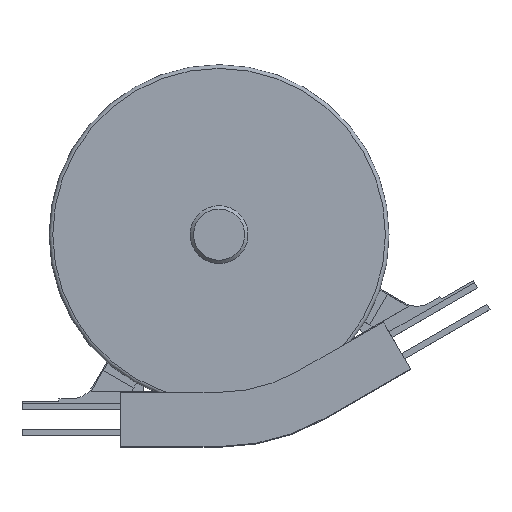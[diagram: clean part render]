
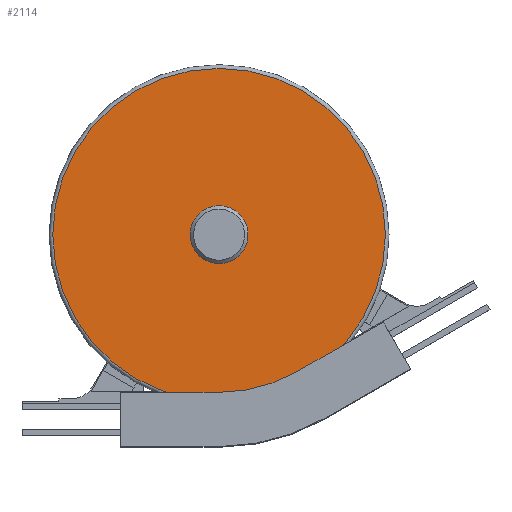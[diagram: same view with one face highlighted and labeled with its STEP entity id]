
A CAD part, top view. The second image highlights one B-rep face of the part: STEP entity #2114.
In plain terms, the highlighted planar face has unit normal (0, 0, 1).
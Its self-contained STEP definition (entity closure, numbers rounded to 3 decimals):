
#41=FACE_BOUND('',#345,.T.);
#81=CIRCLE('',#2283,135.);
#83=CIRCLE('',#2286,21.);
#213=FACE_OUTER_BOUND('',#344,.T.);
#344=EDGE_LOOP('',(#1806));
#345=EDGE_LOOP('',(#1807));
#1023=VERTEX_POINT('',#3376);
#1024=VERTEX_POINT('',#3380);
#1290=EDGE_CURVE('',#1023,#1023,#81,.T.);
#1292=EDGE_CURVE('',#1024,#1024,#83,.T.);
#1806=ORIENTED_EDGE('',*,*,#1290,.T.);
#1807=ORIENTED_EDGE('',*,*,#1292,.F.);
#2000=PLANE('',#2285);
#2114=ADVANCED_FACE('',(#213,#41),#2000,.T.);
#2283=AXIS2_PLACEMENT_3D('',#3377,#2769,#2770);
#2285=AXIS2_PLACEMENT_3D('',#3379,#2773,#2774);
#2286=AXIS2_PLACEMENT_3D('',#3381,#2775,#2776);
#2769=DIRECTION('center_axis',(0.,0.,1.));
#2770=DIRECTION('ref_axis',(1.,0.,0.));
#2773=DIRECTION('center_axis',(0.,0.,1.));
#2774=DIRECTION('ref_axis',(1.,0.,0.));
#2775=DIRECTION('center_axis',(0.,0.,1.));
#2776=DIRECTION('ref_axis',(1.,0.,0.));
#3376=CARTESIAN_POINT('',(-55.,150.,33.5));
#3377=CARTESIAN_POINT('Origin',(80.,150.,33.5));
#3379=CARTESIAN_POINT('Origin',(74.565,170.284,33.5));
#3380=CARTESIAN_POINT('',(85.435,129.716,33.5));
#3381=CARTESIAN_POINT('Origin',(80.,150.,33.5));
